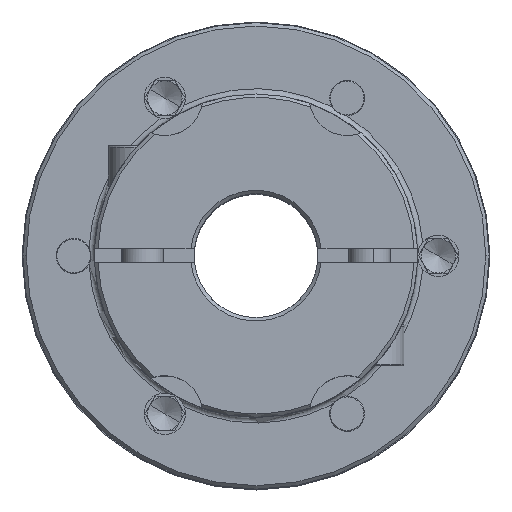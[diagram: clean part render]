
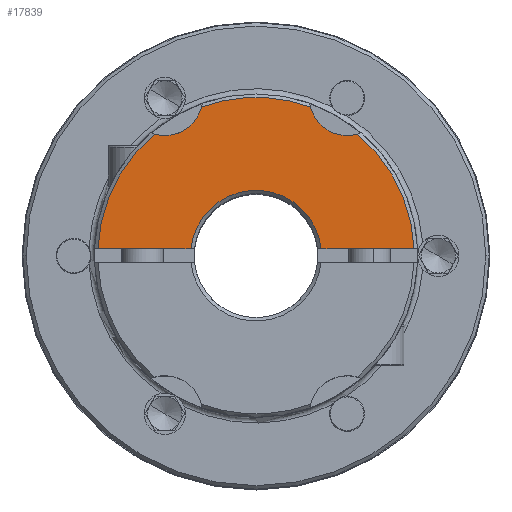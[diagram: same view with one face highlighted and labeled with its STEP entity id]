
A CAD part, top view. The second image highlights one B-rep face of the part: STEP entity #17839.
In plain terms, the highlighted planar face has unit normal (0, 0, 1).
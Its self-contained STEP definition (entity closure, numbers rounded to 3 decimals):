
#191 = EDGE_CURVE ( 'NONE', #16143, #14839, #5234, .T. ) ;
#342 = VERTEX_POINT ( 'NONE', #15436 ) ;
#814 = EDGE_CURVE ( 'NONE', #8657, #4656, #3370, .T. ) ;
#1030 = CARTESIAN_POINT ( 'NONE',  ( 0., 0., 27.95 ) ) ;
#1154 = EDGE_CURVE ( 'NONE', #15574, #14839, #12779, .T. ) ;
#1308 = DIRECTION ( 'NONE',  ( 1., 0., 0. ) ) ;
#1488 = ORIENTED_EDGE ( 'NONE', *, *, #11286, .T. ) ;
#1642 = CARTESIAN_POINT ( 'NONE',  ( 22.978, 1., 27.95 ) ) ;
#1753 = DIRECTION ( 'NONE',  ( 0., 0., 1. ) ) ;
#2889 = DIRECTION ( 'NONE',  ( 0., 0., 1. ) ) ;
#3370 = LINE ( 'NONE', #8757, #13889 ) ;
#3565 = EDGE_CURVE ( 'NONE', #4656, #342, #4723, .T. ) ;
#4528 = EDGE_CURVE ( 'NONE', #9300, #10020, #20935, .T. ) ;
#4656 = VERTEX_POINT ( 'NONE', #1642 ) ;
#4723 = CIRCLE ( 'NONE', #17281, 23. ) ;
#5234 = CIRCLE ( 'NONE', #8101, 23. ) ;
#5526 = AXIS2_PLACEMENT_3D ( 'NONE', #6197, #21732, #13050 ) ;
#5918 = ORIENTED_EDGE ( 'NONE', *, *, #20610, .T. ) ;
#6088 = AXIS2_PLACEMENT_3D ( 'NONE', #13494, #6531, #10560 ) ;
#6197 = CARTESIAN_POINT ( 'NONE',  ( 13.25, 22.95, 27.95 ) ) ;
#6531 = DIRECTION ( 'NONE',  ( 0., 0., 1. ) ) ;
#7888 = CARTESIAN_POINT ( 'NONE',  ( 0., 0., 27.95 ) ) ;
#8101 = AXIS2_PLACEMENT_3D ( 'NONE', #1030, #13918, #19094 ) ;
#8153 = CARTESIAN_POINT ( 'NONE',  ( 0., 0., 27.95 ) ) ;
#8510 = CARTESIAN_POINT ( 'NONE',  ( -9.447, 1., 27.95 ) ) ;
#8657 = VERTEX_POINT ( 'NONE', #13482 ) ;
#8699 = AXIS2_PLACEMENT_3D ( 'NONE', #8153, #1753, #22114 ) ;
#8757 = CARTESIAN_POINT ( 'NONE',  ( -34., 1., 27.95 ) ) ;
#8980 = VECTOR ( 'NONE', #1308, 1000. ) ;
#9300 = VERTEX_POINT ( 'NONE', #14464 ) ;
#9338 = DIRECTION ( 'NONE',  ( 0., 0., 1. ) ) ;
#9745 = DIRECTION ( 'NONE',  ( 0.5, 0.866, 0. ) ) ;
#10020 = VERTEX_POINT ( 'NONE', #8510 ) ;
#10186 = CIRCLE ( 'NONE', #17711, 9.5 ) ;
#10457 = DIRECTION ( 'NONE',  ( 1., 0., 0. ) ) ;
#10560 = DIRECTION ( 'NONE',  ( 1., 0., 0. ) ) ;
#11201 = EDGE_LOOP ( 'NONE', ( #1488, #19980, #5918, #18913, #13518, #13224, #13402, #12984 ) ) ;
#11223 = CARTESIAN_POINT ( 'NONE',  ( -14.741, 17.655, 27.95 ) ) ;
#11286 = EDGE_CURVE ( 'NONE', #15574, #9300, #15795, .T. ) ;
#11560 = CARTESIAN_POINT ( 'NONE',  ( 7.92, 21.593, 27.95 ) ) ;
#11854 = FACE_OUTER_BOUND ( 'NONE', #11201, .T. ) ;
#12779 = CIRCLE ( 'NONE', #19284, 5.5 ) ;
#12915 = DIRECTION ( 'NONE',  ( 1., 0., 0. ) ) ;
#12984 = ORIENTED_EDGE ( 'NONE', *, *, #1154, .F. ) ;
#13050 = DIRECTION ( 'NONE',  ( 1., 0., 0. ) ) ;
#13224 = ORIENTED_EDGE ( 'NONE', *, *, #20553, .F. ) ;
#13387 = DIRECTION ( 'NONE',  ( 0., 0., -1. ) ) ;
#13402 = ORIENTED_EDGE ( 'NONE', *, *, #191, .T. ) ;
#13482 = CARTESIAN_POINT ( 'NONE',  ( 9.447, 1., 27.95 ) ) ;
#13494 = CARTESIAN_POINT ( 'NONE',  ( 0., 0., 27.95 ) ) ;
#13518 = ORIENTED_EDGE ( 'NONE', *, *, #3565, .T. ) ;
#13889 = VECTOR ( 'NONE', #10457, 1000. ) ;
#13918 = DIRECTION ( 'NONE',  ( 0., 0., 1. ) ) ;
#14464 = CARTESIAN_POINT ( 'NONE',  ( -22.978, 1., 27.95 ) ) ;
#14750 = DIRECTION ( 'NONE',  ( 1., 0., 0. ) ) ;
#14839 = VERTEX_POINT ( 'NONE', #19844 ) ;
#14900 = CARTESIAN_POINT ( 'NONE',  ( -34., 1., 27.95 ) ) ;
#15436 = CARTESIAN_POINT ( 'NONE',  ( 14.741, 17.655, 27.95 ) ) ;
#15574 = VERTEX_POINT ( 'NONE', #11223 ) ;
#15795 = CIRCLE ( 'NONE', #6088, 23. ) ;
#16143 = VERTEX_POINT ( 'NONE', #11560 ) ;
#17134 = PLANE ( 'NONE',  #8699 ) ;
#17281 = AXIS2_PLACEMENT_3D ( 'NONE', #21498, #9338, #12915 ) ;
#17355 = CIRCLE ( 'NONE', #5526, 5.5 ) ;
#17711 = AXIS2_PLACEMENT_3D ( 'NONE', #7888, #13387, #14750 ) ;
#17839 = ADVANCED_FACE ( 'NONE', ( #11854 ), #17134, .T. ) ;
#18284 = CARTESIAN_POINT ( 'NONE',  ( -13.25, 22.95, 27.95 ) ) ;
#18913 = ORIENTED_EDGE ( 'NONE', *, *, #814, .T. ) ;
#19094 = DIRECTION ( 'NONE',  ( 1., 0., 0. ) ) ;
#19284 = AXIS2_PLACEMENT_3D ( 'NONE', #18284, #2889, #9745 ) ;
#19844 = CARTESIAN_POINT ( 'NONE',  ( -7.92, 21.593, 27.95 ) ) ;
#19980 = ORIENTED_EDGE ( 'NONE', *, *, #4528, .T. ) ;
#20553 = EDGE_CURVE ( 'NONE', #16143, #342, #17355, .T. ) ;
#20610 = EDGE_CURVE ( 'NONE', #10020, #8657, #10186, .T. ) ;
#20935 = LINE ( 'NONE', #14900, #8980 ) ;
#21498 = CARTESIAN_POINT ( 'NONE',  ( 0., 0., 27.95 ) ) ;
#21732 = DIRECTION ( 'NONE',  ( 0., 0., 1. ) ) ;
#22114 = DIRECTION ( 'NONE',  ( 1., 0., 0. ) ) ;
